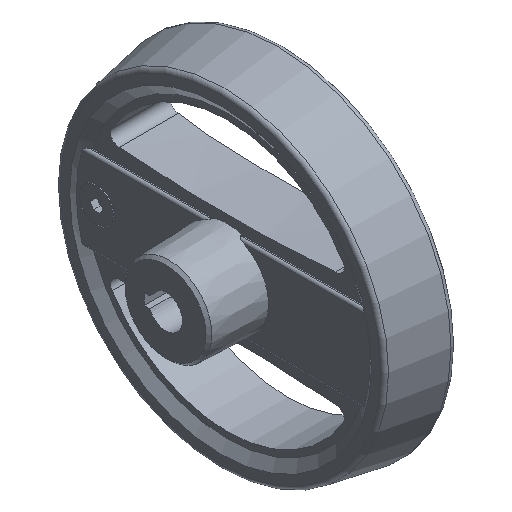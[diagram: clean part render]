
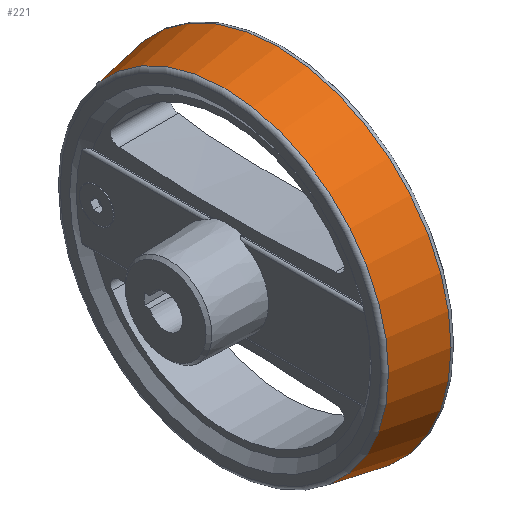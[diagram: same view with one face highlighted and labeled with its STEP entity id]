
A CAD part, isometric view. The second image highlights one B-rep face of the part: STEP entity #221.
In plain terms, the highlighted conical face has half-angle 10.006 degrees and reference radius 59.107 mm.
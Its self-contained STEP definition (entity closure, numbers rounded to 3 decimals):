
#221 = ADVANCED_FACE( '', ( #407, #408 ), #409, .T. );
#407 = FACE_OUTER_BOUND( '', #675, .T. );
#408 = FACE_BOUND( '', #676, .T. );
#409 = CONICAL_SURFACE( '', #677, 59.107, 0.175 );
#675 = EDGE_LOOP( '', ( #1213 ) );
#676 = EDGE_LOOP( '', ( #1214 ) );
#677 = AXIS2_PLACEMENT_3D( '', #1215, #1216, #1217 );
#1213 = ORIENTED_EDGE( '', *, *, #1751, .F. );
#1214 = ORIENTED_EDGE( '', *, *, #1750, .T. );
#1215 = CARTESIAN_POINT( '', ( 20.939, 0., 0. ) );
#1216 = DIRECTION( '', ( 1., 0., 0. ) );
#1217 = DIRECTION( '', ( 0., 0., -1. ) );
#1750 = EDGE_CURVE( '', #2105, #2105, #2106, .T. );
#1751 = EDGE_CURVE( '', #2107, #2107, #2108, .T. );
#2105 = VERTEX_POINT( '', #3003 );
#2106 = CIRCLE( '', #3004, 59.107 );
#2107 = VERTEX_POINT( '', #3005 );
#2108 = CIRCLE( '', #3006, 62.477 );
#3003 = CARTESIAN_POINT( '', ( 20.939, 0., -59.107 ) );
#3004 = AXIS2_PLACEMENT_3D( '', #3401, #3402, #3403 );
#3005 = CARTESIAN_POINT( '', ( 40.039, 0., -62.477 ) );
#3006 = AXIS2_PLACEMENT_3D( '', #3404, #3405, #3406 );
#3401 = CARTESIAN_POINT( '', ( 20.939, 0., 0. ) );
#3402 = DIRECTION( '', ( 1., 0., 0. ) );
#3403 = DIRECTION( '', ( 0., 0., -1. ) );
#3404 = CARTESIAN_POINT( '', ( 40.039, 0., 0. ) );
#3405 = DIRECTION( '', ( 1., 0., 0. ) );
#3406 = DIRECTION( '', ( 0., 0., -1. ) );
